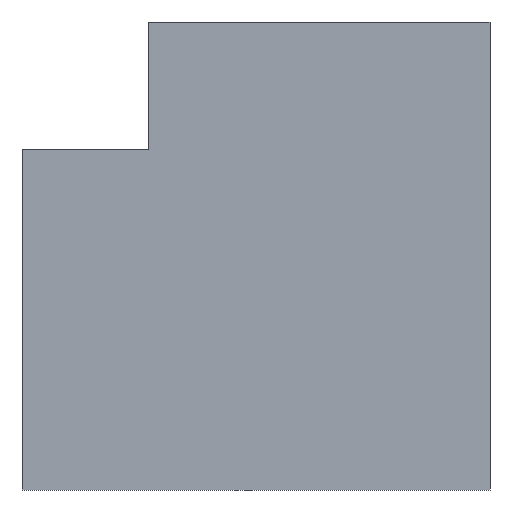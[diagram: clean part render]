
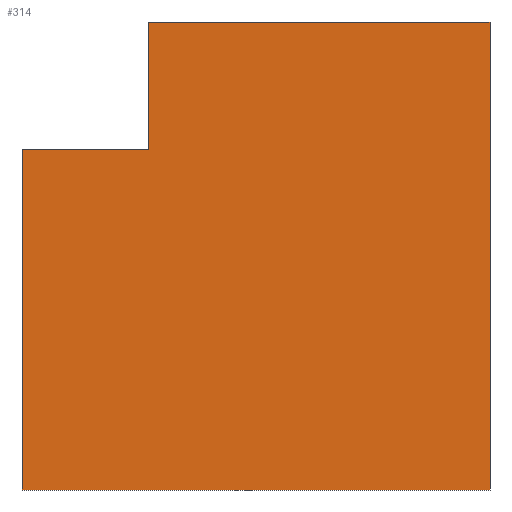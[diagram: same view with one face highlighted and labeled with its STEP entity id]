
A CAD part, front view. The second image highlights one B-rep face of the part: STEP entity #314.
In plain terms, the highlighted planar face has unit normal (0, -1, 0).
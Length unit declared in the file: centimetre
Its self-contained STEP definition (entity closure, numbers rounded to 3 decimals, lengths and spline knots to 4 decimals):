
#30 = ORIENTED_EDGE ( 'NONE', *, *, #396, .F. ) ;
#34 = ORIENTED_EDGE ( 'NONE', *, *, #239, .F. ) ;
#40 = EDGE_CURVE ( 'NONE', #332, #363, #121, .T. ) ;
#43 = LINE ( 'NONE', #72, #330 ) ;
#58 = VERTEX_POINT ( 'NONE', #272 ) ;
#64 = DIRECTION ( 'NONE',  ( 0., 0., -1. ) ) ;
#72 = CARTESIAN_POINT ( 'NONE',  ( 270.122, 0., 726.6178 ) ) ;
#73 = DIRECTION ( 'NONE',  ( 0., 0., 1. ) ) ;
#83 = CARTESIAN_POINT ( 'NONE',  ( 1000., 0., 0. ) ) ;
#94 = ORIENTED_EDGE ( 'NONE', *, *, #136, .T. ) ;
#100 = PLANE ( 'NONE',  #399 ) ;
#101 = CARTESIAN_POINT ( 'NONE',  ( 0., 0., 0. ) ) ;
#107 = CARTESIAN_POINT ( 'NONE',  ( 0., 0., 726.6178 ) ) ;
#114 = VERTEX_POINT ( 'NONE', #253 ) ;
#121 = LINE ( 'NONE', #248, #194 ) ;
#125 = ORIENTED_EDGE ( 'NONE', *, *, #352, .F. ) ;
#130 = FACE_OUTER_BOUND ( 'NONE', #179, .T. ) ;
#136 = EDGE_CURVE ( 'NONE', #114, #332, #313, .T. ) ;
#143 = CARTESIAN_POINT ( 'NONE',  ( 1000., 0., 1000. ) ) ;
#153 = ORIENTED_EDGE ( 'NONE', *, *, #40, .T. ) ;
#160 = DIRECTION ( 'NONE',  ( 0., 0., 1. ) ) ;
#162 = CARTESIAN_POINT ( 'NONE',  ( 0., 0., 1000. ) ) ;
#179 = EDGE_LOOP ( 'NONE', ( #215, #34, #125, #94, #153, #30 ) ) ;
#194 = VECTOR ( 'NONE', #331, 100. ) ;
#195 = DIRECTION ( 'NONE',  ( 1., 0., 0. ) ) ;
#215 = ORIENTED_EDGE ( 'NONE', *, *, #341, .F. ) ;
#224 = LINE ( 'NONE', #348, #247 ) ;
#239 = EDGE_CURVE ( 'NONE', #302, #311, #43, .T. ) ;
#247 = VECTOR ( 'NONE', #195, 100. ) ;
#248 = CARTESIAN_POINT ( 'NONE',  ( 0., 0., 0. ) ) ;
#253 = CARTESIAN_POINT ( 'NONE',  ( 0., 0., 726.6178 ) ) ;
#261 = CARTESIAN_POINT ( 'NONE',  ( 270.122, 0., 726.6178 ) ) ;
#262 = VECTOR ( 'NONE', #385, 100. ) ;
#272 = CARTESIAN_POINT ( 'NONE',  ( 1000., 0., 1000. ) ) ;
#285 = DIRECTION ( 'NONE',  ( 0., 1., 0. ) ) ;
#286 = LINE ( 'NONE', #107, #374 ) ;
#289 = VECTOR ( 'NONE', #64, 100. ) ;
#290 = LINE ( 'NONE', #143, #262 ) ;
#302 = VERTEX_POINT ( 'NONE', #261 ) ;
#311 = VERTEX_POINT ( 'NONE', #379 ) ;
#313 = LINE ( 'NONE', #377, #289 ) ;
#314 = ADVANCED_FACE ( 'NONE', ( #130 ), #100, .F. ) ;
#325 = DIRECTION ( 'NONE',  ( 1., 0., 0. ) ) ;
#330 = VECTOR ( 'NONE', #160, 100. ) ;
#331 = DIRECTION ( 'NONE',  ( 1., 0., 0. ) ) ;
#332 = VERTEX_POINT ( 'NONE', #101 ) ;
#341 = EDGE_CURVE ( 'NONE', #311, #58, #224, .T. ) ;
#348 = CARTESIAN_POINT ( 'NONE',  ( 0., 0., 1000. ) ) ;
#352 = EDGE_CURVE ( 'NONE', #114, #302, #286, .T. ) ;
#363 = VERTEX_POINT ( 'NONE', #83 ) ;
#374 = VECTOR ( 'NONE', #325, 100. ) ;
#377 = CARTESIAN_POINT ( 'NONE',  ( 0., 0., 1000. ) ) ;
#379 = CARTESIAN_POINT ( 'NONE',  ( 270.122, 0., 1000. ) ) ;
#385 = DIRECTION ( 'NONE',  ( 0., 0., -1. ) ) ;
#396 = EDGE_CURVE ( 'NONE', #58, #363, #290, .T. ) ;
#399 = AXIS2_PLACEMENT_3D ( 'NONE', #162, #285, #73 ) ;
